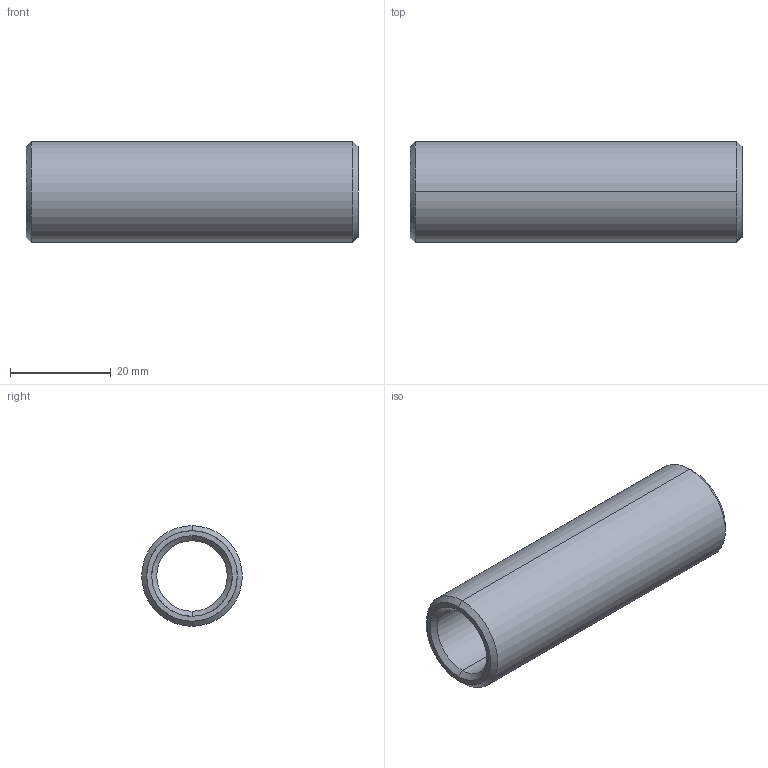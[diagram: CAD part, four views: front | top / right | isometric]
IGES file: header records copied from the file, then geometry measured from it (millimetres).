
Start section: START RECORD GO HERE.
Global section: file name: 352-14X66.igs; native system: DASSAULT SYSTEMES CATIA V5 R20 - www.3ds.com; preprocessor: CATIA Version 5 Release 20 ; author: Utente; organization: NB04-ASUS; date: 20210410.111045; units: millimetre
Bounding box: 66 x 20 x 20 mm (x, y, z)
Surface area: 7251.1 mm2 (no closed solid volume)
Topology: 0 solids, 0 shells, 14 faces, 88 edges, 88 vertices
Faces by surface type: revolution 12, plane 2
